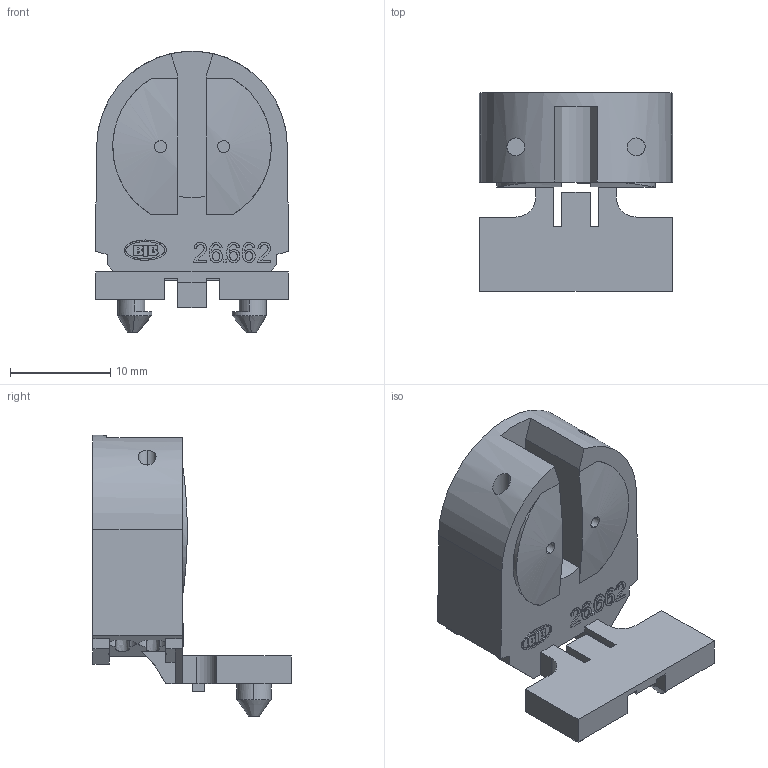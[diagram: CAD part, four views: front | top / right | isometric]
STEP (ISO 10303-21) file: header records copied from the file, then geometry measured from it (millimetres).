
FILE_DESCRIPTION((' '),'1');
FILE_NAME('00TY502Y06.stp','2009-09-04 T07:47:14',(' '),(' '),'STEP Interface v1.0 by CT CoreTechnologie','3D_Evolution v1.0 by CT CoreTechnologie',' ');
FILE_SCHEMA(('CONFIG_CONTROL_DESIGN'));
Length unit declared in the file: millimetre
Products named in the file (1): 00TY502Y06
Bounding box: 19.25 x 19.75 x 28.04 mm (x, y, z)
Volume: 3237.5 mm3; surface area: 2603.5 mm2
Topology: 1 solids, 1 shells, 261 faces, 717 edges, 481 vertices
Faces by surface type: plane 158, cylinder 83, bspline 20
Entity records: 9724 total; most frequent: CARTESIAN_POINT 2998, ORIENTED_EDGE 1434, DIRECTION 1343, EDGE_CURVE 717, VECTOR 499, LINE 499, VERTEX_POINT 481, AXIS2_PLACEMENT_3D 422
